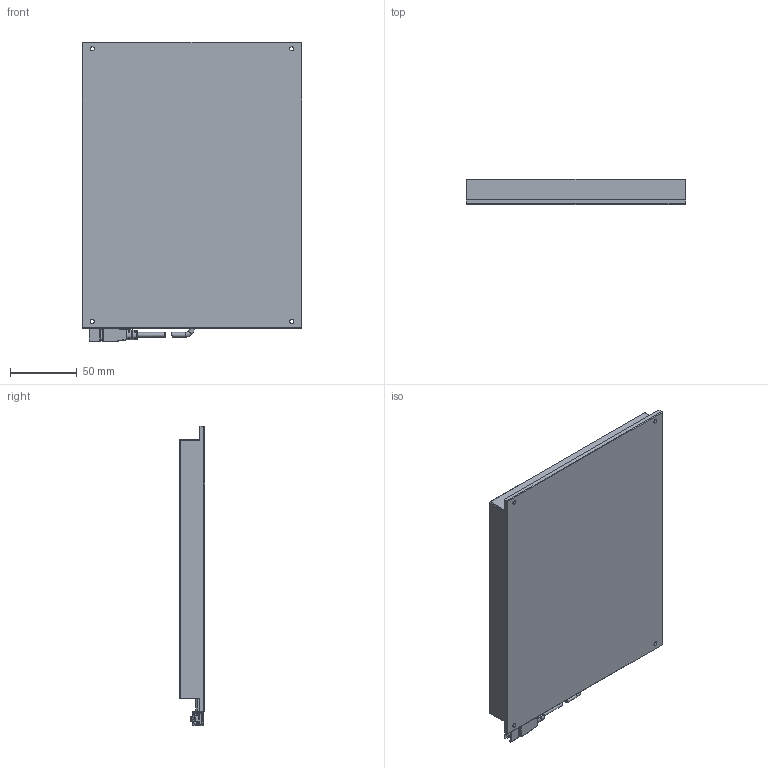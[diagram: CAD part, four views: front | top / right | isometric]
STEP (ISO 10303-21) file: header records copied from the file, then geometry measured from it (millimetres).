
FILE_DESCRIPTION((''),'2;1');
FILE_NAME('MV-LBSS-180-150_ASM','2019-09-19T',('Administrator'),(''),'PRO/ENGINEER BY PARAMETRIC TECHNOLOGY CORPORATION, 2010100','PRO/ENGINEER BY PARAMETRIC TECHNOLOGY CORPORATION, 2010100','');
FILE_SCHEMA(('CONFIG_CONTROL_DESIGN'));
Length unit declared in the file: millimetre
Products named in the file (5): JIANYI_1; LINE_TOU1_2; BODY_121_1; ASSY1_ASM_1_ASM; MV-LBSS-180-150_ASM
Assembly tree (4 placements, depth 3):
  MV-LBSS-180-150_ASM
    JIANYI_1
    ASSY1_ASM_1_ASM
      LINE_TOU1_2
      BODY_121_1
Bounding box: 165 x 19 x 225.25 mm (x, y, z)
Volume: 613100.5 mm3; surface area: 87164.6 mm2
Topology: 3 solids, 3 shells, 270 faces, 701 edges, 439 vertices
Faces by surface type: plane 165, cylinder 75, torus 12, bspline 8, sphere 8, cone 2
Entity records: 8471 total; most frequent: CARTESIAN_POINT 1726, DIRECTION 1387, ORIENTED_EDGE 1386, EDGE_CURVE 693, VECTOR 469, LINE 469, AXIS2_PLACEMENT_3D 459, VERTEX_POINT 439
